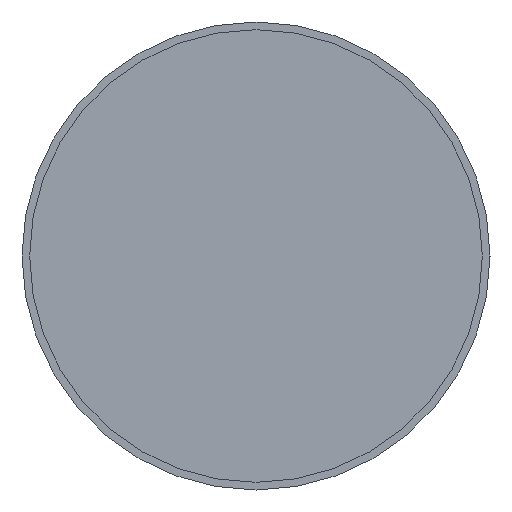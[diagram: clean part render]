
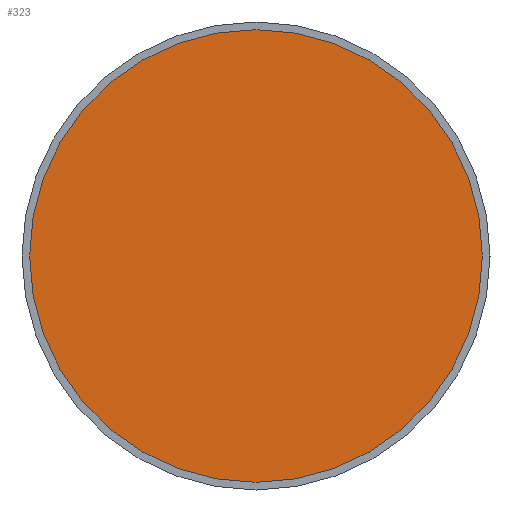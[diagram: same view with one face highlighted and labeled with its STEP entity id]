
A CAD part, left-side view. The second image highlights one B-rep face of the part: STEP entity #323.
In plain terms, the highlighted planar face has unit normal (-1, 0, 0).
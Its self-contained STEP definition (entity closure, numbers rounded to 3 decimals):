
#24=PLANE('',#370);
#37=CIRCLE('',#371,3.845);
#38=CIRCLE('',#372,3.845);
#71=FACE_OUTER_BOUND('',#91,.T.);
#91=EDGE_LOOP('',(#242,#243));
#140=VERTEX_POINT('',#629);
#141=VERTEX_POINT('',#630);
#180=EDGE_CURVE('',#140,#141,#37,.T.);
#181=EDGE_CURVE('',#141,#140,#38,.T.);
#242=ORIENTED_EDGE('',*,*,#180,.F.);
#243=ORIENTED_EDGE('',*,*,#181,.F.);
#323=ADVANCED_FACE('',(#71),#24,.T.);
#370=AXIS2_PLACEMENT_3D('',#628,#442,#443);
#371=AXIS2_PLACEMENT_3D('',#631,#444,#445);
#372=AXIS2_PLACEMENT_3D('',#632,#446,#447);
#442=DIRECTION('center_axis',(-1.,0.,0.));
#443=DIRECTION('ref_axis',(0.,0.,1.));
#444=DIRECTION('center_axis',(1.,0.,0.));
#445=DIRECTION('ref_axis',(0.,0.,-1.));
#446=DIRECTION('center_axis',(1.,0.,0.));
#447=DIRECTION('ref_axis',(0.,0.,-1.));
#628=CARTESIAN_POINT('Origin',(0.,3.845,0.));
#629=CARTESIAN_POINT('',(0.,3.845,0.));
#630=CARTESIAN_POINT('',(0.,-3.845,0.));
#631=CARTESIAN_POINT('Origin',(0.,0.,0.));
#632=CARTESIAN_POINT('Origin',(0.,0.,0.));
